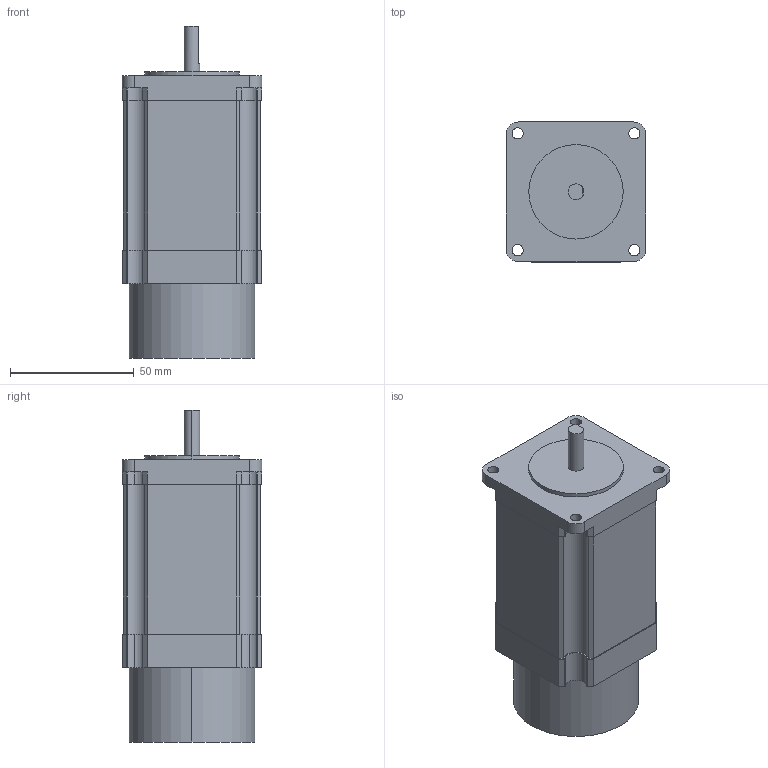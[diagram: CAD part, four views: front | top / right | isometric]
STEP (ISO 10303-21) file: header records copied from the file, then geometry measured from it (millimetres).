
FILE_DESCRIPTION (( 'STEP AP214' ), '1' );
FILE_NAME ('K2610-05M.STEP', '2016-09-08T09:21:15', ( 'hoho' ), ( '' ), 'SwSTEP 2.0', 'SolidWorks 2013', '' );
FILE_SCHEMA (( 'AUTOMOTIVE_DESIGN' ));
Length unit declared in the file: millimetre
Products named in the file (1): K2610-05M
Bounding box: 56.4 x 56.4 x 134 mm (x, y, z)
Volume: 296541.2 mm3; surface area: 30263.4 mm2
Topology: 1 solids, 1 shells, 115 faces, 324 edges, 216 vertices
Faces by surface type: cylinder 66, plane 49
Entity records: 4130 total; most frequent: DIRECTION 690, CARTESIAN_POINT 656, ORIENTED_EDGE 648, EDGE_CURVE 324, AXIS2_PLACEMENT_3D 250, VERTEX_POINT 216, LINE 190, VECTOR 190
